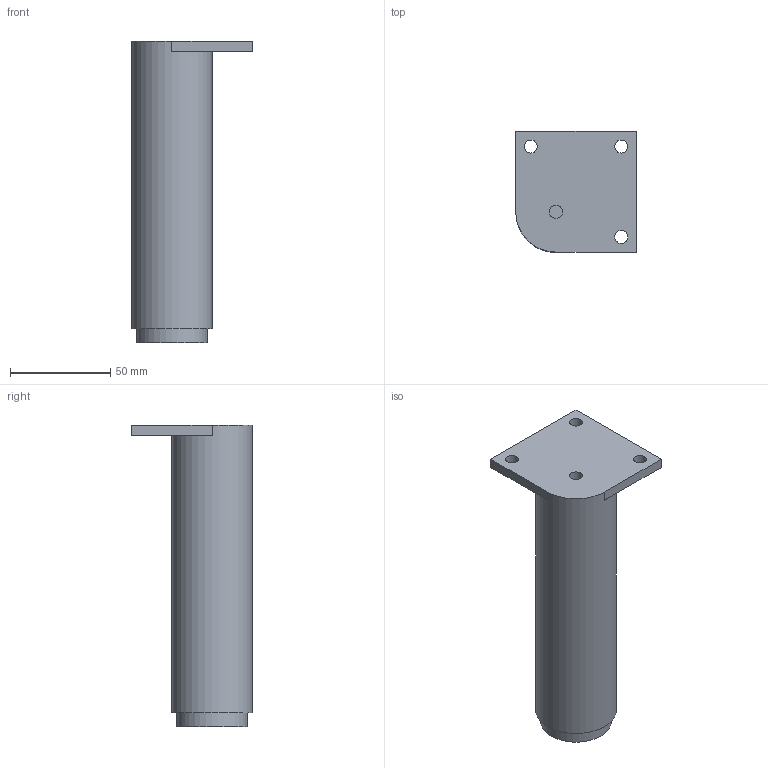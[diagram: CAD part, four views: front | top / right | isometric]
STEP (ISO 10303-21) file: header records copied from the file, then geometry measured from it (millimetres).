
FILE_DESCRIPTION( ( 'STEP AP214' ), '1' );
FILE_NAME( 'D:/Yug/2021/Desk_and_office_organisation/QC/9119554.stp', '2021-01-06T05:07:22', ( '' ), ( '' ), ' ', 'PARTsolutions', ' ' );
FILE_SCHEMA( ( 'AUTOMOTIVE_DESIGN { 1 0 10303 214 1 1 1 1 }' ) );
Length unit declared in the file: millimetre
Products named in the file (1): _9119554
Bounding box: 60 x 60 x 150 mm (x, y, z)
Volume: 197061.9 mm3; surface area: 26506 mm2
Topology: 1 solids, 1 shells, 15 faces, 33 edges, 22 vertices
Faces by surface type: plane 9, cylinder 6
Full cylindrical faces by diameter (mm): 6.48 x4, 35 x1, 40 x1
Entity records: 529 total; most frequent: DIRECTION 71, CARTESIAN_POINT 63, ORIENTED_EDGE 52, AXIS2_PLACEMENT_3D 29, EDGE_LOOP 29, EDGE_CURVE 26, FACE_OUTER_BOUND 21, VERTEX_POINT 21
